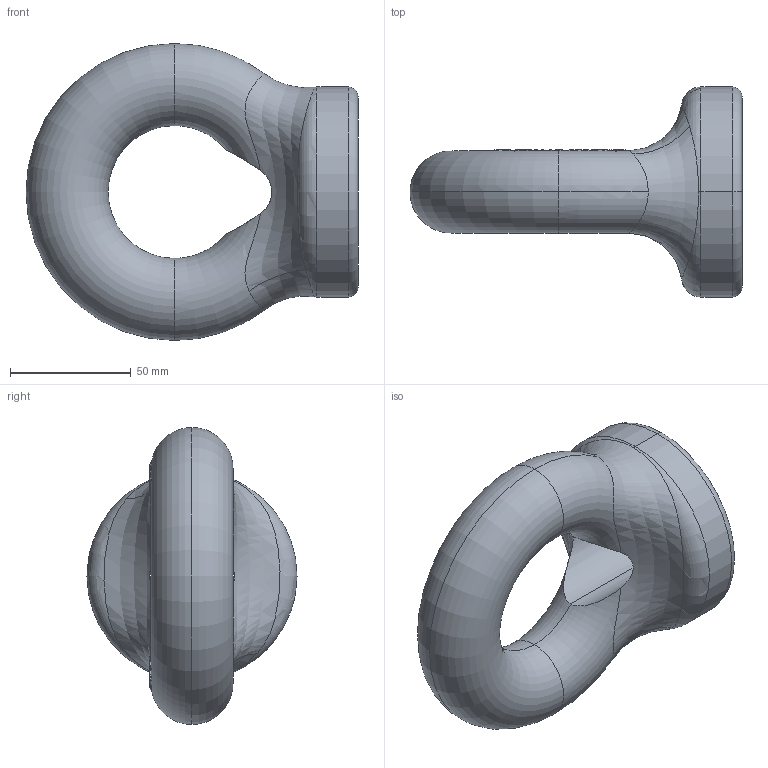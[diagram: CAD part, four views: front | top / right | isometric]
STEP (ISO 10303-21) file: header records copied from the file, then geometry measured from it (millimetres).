
FILE_DESCRIPTION (( 'STEP AP203' ), '1' );
FILE_NAME ('ENB1500.STEP', '2010-02-10T07:21:08', ( 'User' ), ( 'Home' ), 'SwSTEP 2.0', 'SolidWorks 2003240', '' );
FILE_SCHEMA (( 'CONFIG_CONTROL_DESIGN' ));
Length unit declared in the file: millimetre
Products named in the file (1): ENB1500
Bounding box: 137.5 x 87 x 123 mm (x, y, z)
Volume: 360306.4 mm3; surface area: 44314 mm2
Topology: 1 solids, 1 shells, 219 faces, 588 edges, 388 vertices
Faces by surface type: plane 131, bspline 50, torus 32, cylinder 4, cone 2
Entity records: 25334 total; most frequent: CARTESIAN_POINT 20633, ORIENTED_EDGE 1176, EDGE_CURVE 588, DIRECTION 580, VERTEX_POINT 388, B_SPLINE_CURVE_WITH_KNOTS 376, EDGE_LOOP 240, FACE_OUTER_BOUND 219
